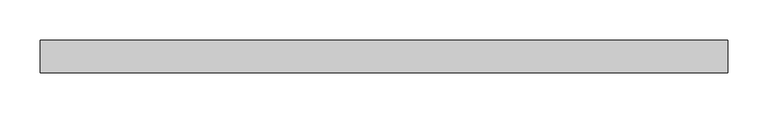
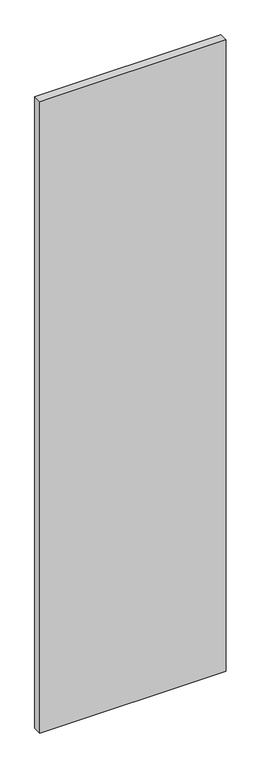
"""IFC4 building model written with IfcOpenShell, lengths in millimetres: plate geometry, Vitré."""

from ifc_helpers import new_model, si_unit, origin, origin_with_axes, place, context, project, spatial, polyline, outline, extrude, source, transform, mapped, element, save


def plate_f1d6c89e(model_context):
    return source(origin(), model_context, "Body", "SweptSolid", [
        extrude(outline(polyline([(-425.0625, -20.0), (-425.0625, 20.0), (425.0625, 20.0), (425.0625, -20.0), (-425.0625, -20.0)])), origin_with_axes(), (0.0, 0.0, 1.0), 3047.625),
    ])


if __name__ == "__main__":
    model = new_model("IFC4")
    model_context = context("Model", 3, world=origin())
    ifc_project = project(units=[si_unit("LENGTHUNIT", "METRE", prefix="MILLI")], contexts=[model_context])
    site = spatial("IfcSite", under=ifc_project)
    building = spatial("IfcBuilding", under=site)
    placement = place(None, origin())
    plate_shape = plate_f1d6c89e(model_context)
    element("IfcPlate", 1, ObjectType="Vitré", at=placement, inside=building, context=model_context, shape_type="MappedRepresentation", body=[
        mapped(plate_shape, transform((0.0, 0.0, 0.0), x_axis=(1.0, 0.0, 0.0), y_axis=(0.0, 1.0, 0.0), z_axis=(0.0, 0.0, 1.0))),
    ])
    save(model, "model.ifc")
